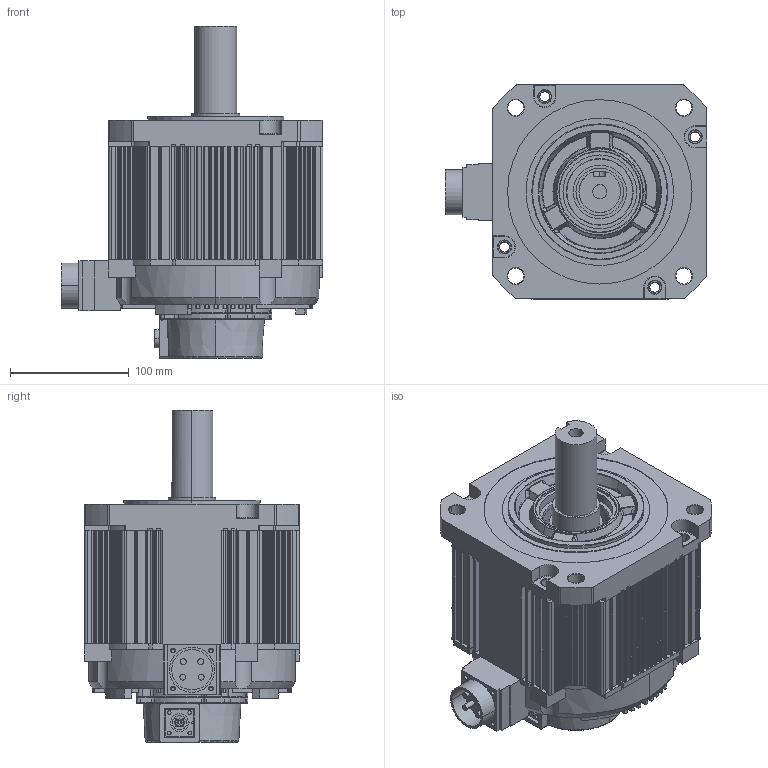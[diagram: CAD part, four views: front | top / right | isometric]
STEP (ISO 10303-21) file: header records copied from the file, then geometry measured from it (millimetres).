
FILE_DESCRIPTION(('CATIA V5 STEP Exchange'),'2;1');
FILE_NAME('F:\公司\180- 5对极\180A-18615\3D\180AST-18615HB-ZZP.stp','2021-08-17T04:22:37+00:00',('none'),('none'),'CATIA Version 5 Release 20 GA (IN-10)','CATIA V5 STEP AP203','none');
FILE_SCHEMA(('CONFIG_CONTROL_DESIGN'));
Products named in the file (1): 180AST-18615HB-ZZP
Bounding box: 220 x 180 x 279 mm (x, y, z)
Volume: 2507500.9 mm3; surface area: 650843.2 mm2
Topology: 3 solids, 3 shells, 2626 faces, 6739 edges, 4203 vertices
Faces by surface type: cylinder 1132, plane 946, torus 279, bspline 162, sphere 74, cone 33
Entity records: 81635 total; most frequent: CARTESIAN_POINT 23255, ORIENTED_EDGE 13380, DIRECTION 9511, EDGE_CURVE 6690, AXIS2_PLACEMENT_3D 4718, VERTEX_POINT 4203, VECTOR 3097, LINE 3097
